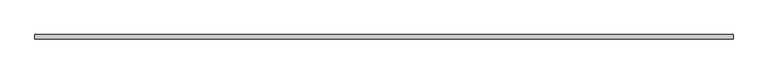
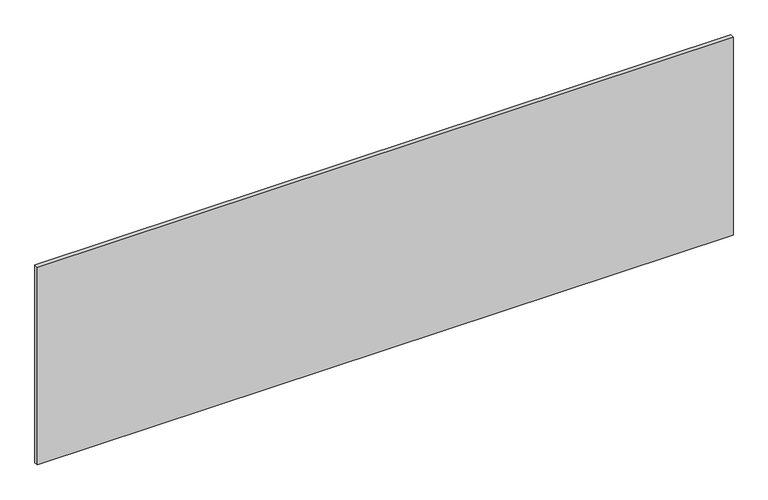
"""IFC4 building model written with IfcOpenShell, lengths in millimetres: proxy geometry, SU.HS.FOOT.1500."""

from ifc_helpers import new_model, si_unit, frame, origin, place, context, project, spatial, polyline, outline, extrude, source, transform, mapped, element, save


def generic_models_dbd98303(model_context):
    return source(origin(), model_context, "Body", "SweptSolid", [
        extrude(outline(polyline([(-832.0, 0.0), (832.0, 0.0), (832.0, -10.0), (-832.0, -10.0), (-832.0, 0.0)])), frame((0.0, 0.0, -100.0), z_axis=(0.0, 0.0, 1.0), x_axis=(1.0, 0.0, 0.0)), (0.0, 0.0, 1.0), 500.0),
    ])


if __name__ == "__main__":
    model = new_model("IFC4")
    model_context = context("Model", 3, world=origin())
    ifc_project = project(units=[si_unit("LENGTHUNIT", "METRE", prefix="MILLI")], contexts=[model_context])
    site = spatial("IfcSite", under=ifc_project)
    building = spatial("IfcBuilding", under=site)
    placement = place(None, origin())
    generic_models_shape = generic_models_dbd98303(model_context)
    element("IfcBuildingElementProxy", 1, Name="SU.HS.FOOT.1500", ObjectType="SU.HS.FOOT.1500", at=placement, inside=building, context=model_context, shape_type="MappedRepresentation", body=[
        mapped(generic_models_shape, transform((0.0, 0.0, 0.0), x_axis=(1.0, 0.0, 0.0), y_axis=(0.0, 1.0, 0.0), z_axis=(0.0, 0.0, 1.0))),
    ])
    save(model, "model.ifc")
